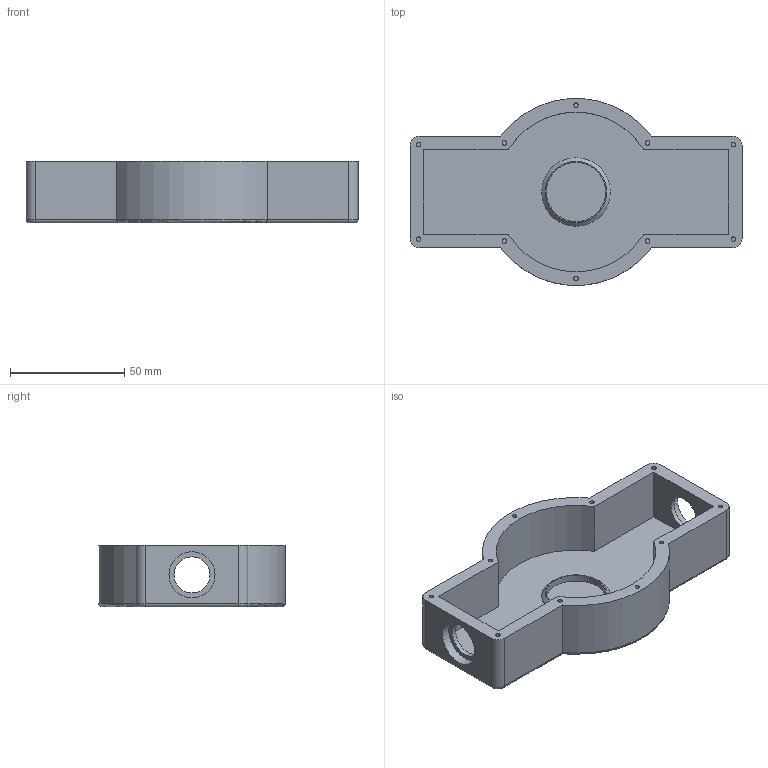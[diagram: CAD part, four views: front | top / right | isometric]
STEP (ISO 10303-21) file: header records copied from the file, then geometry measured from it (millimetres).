
FILE_DESCRIPTION(/* description */ (''),/* implementation_level */ '2;1');
FILE_NAME(/* name */ 'Balun70mm_PL_OZ1KLM_V2_Bund.step',/* time_stamp */ '2026-06-20T11:31:53+02:00',/* author */ (''),/* organization */ (''),/* preprocessor_version */ 'ST-DEVELOPER v20.1',/* originating_system */ 'Autodesk Translation Framework v15.8.0.0',/* authorisation */ '');
FILE_SCHEMA (('AUTOMOTIVE_DESIGN { 1 0 10303 214 3 1 1 }'));
Length unit declared in the file: millimetre
Products named in the file (2): 2026-06-17-18-00-12-929; 2026-06-13-15-12-59-536
Assembly tree (1 placements, depth 2):
  2026-06-17-18-00-12-929
    2026-06-13-15-12-59-536
Bounding box: 145.42 x 81.71 x 27 mm (x, y, z)
Volume: 76677.5 mm3; surface area: 38386.2 mm2
Topology: 1 solids, 1 shells, 66 faces, 134 edges, 85 vertices
Faces by surface type: cylinder 30, plane 29, torus 6, cone 1
Full cylindrical faces by diameter (mm): 2 x10, 15.8 x2, 20.2 x2, 26 x1, 30 x1
Entity records: 1849 total; most frequent: CARTESIAN_POINT 340, DIRECTION 331, ORIENTED_EDGE 268, EDGE_CURVE 134, AXIS2_PLACEMENT_3D 132, EDGE_LOOP 85, VERTEX_POINT 85, LINE 67
